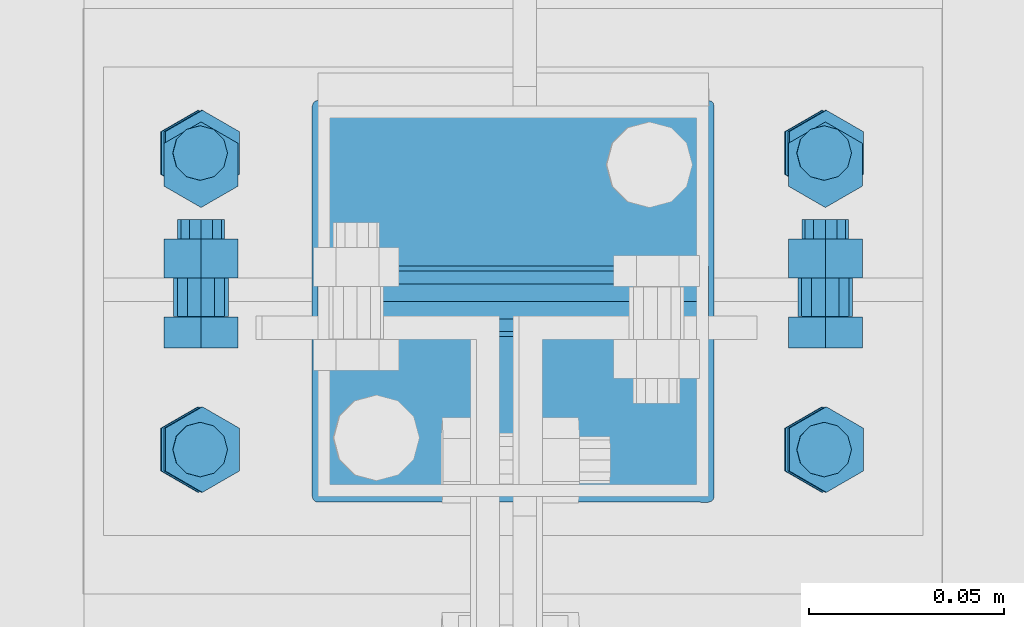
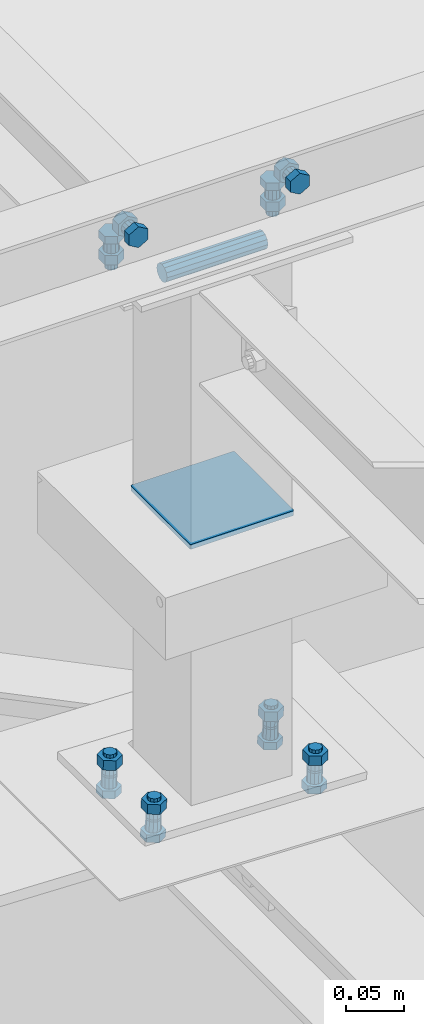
# One storey, part 231 of 3134: 6 mechanical fasteners, 4 elements without a shape of their own.
"""IFC2X3 building model written with IfcOpenShell, lengths in millimetres."""

from ifc_helpers import new_model, si_unit, frame, origin_with_axes, place, context, subcontext, project, spatial, faceted_brep, source, transform, mapped, material, type_object, element, aggregate, save


model = new_model("IFC2X3")

# Units and contexts
model_context = context("Model", 3, precision=1e-05, world=origin_with_axes())
body_context = subcontext(model_context, "Body", "Model", "MODEL_VIEW")
ifc_project = project(units=[si_unit("LENGTHUNIT", "METRE", prefix="MILLI"), si_unit("AREAUNIT", "SQUARE_METRE"), si_unit("VOLUMEUNIT", "CUBIC_METRE"), si_unit("MASSUNIT", "GRAM", prefix="KILO"), si_unit("TIMEUNIT", "SECOND"), si_unit("PLANEANGLEUNIT", "RADIAN"), si_unit("SOLIDANGLEUNIT", "STERADIAN"), si_unit("THERMODYNAMICTEMPERATUREUNIT", "DEGREE_CELSIUS"), si_unit("LUMINOUSINTENSITYUNIT", "LUMEN")], contexts=[model_context])

# Site, building, storey
site_placement = place(None, origin_with_axes())
site = spatial("IfcSite", under=ifc_project, at=site_placement, CompositionType="ELEMENT")
building_placement = place(site_placement, origin_with_axes())
building = spatial("IfcBuilding", under=site, at=building_placement, Name="Undefined", CompositionType="ELEMENT")
storey_placement = place(building_placement, origin_with_axes())
storey = spatial("IfcBuildingStorey", under=building, at=storey_placement, Name="Undefined", CompositionType="ELEMENT", Elevation=0.0)

# Assembly, mechanical fastener
assembly_1_placement = place(storey_placement, origin_with_axes())
assembly_1 = element("IfcElementAssembly", 1, at=assembly_1_placement, inside=storey, AssemblyPlace="NOTDEFINED", PredefinedType="RIGID_FRAME")
ifc_material_1 = material(Name="8.8")
mechanical_fastener_type = type_object("IfcMechanicalFastenerType", Name="Bolt assembly")
shared_shape_1 = source(origin_with_axes(), body_context, "Body", "Brep", [
    faceted_brep([(10.9696551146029, -14.0, 0.0), (5.48482755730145, -14.0, 9.5), (-5.48482755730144, -14.0, 9.5), (-10.9696551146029, -14.0, 1.34339530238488e-15), (-5.48482755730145, -14.0, -9.5), (5.48482755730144, -14.0, -9.50000000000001), (5.48482755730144, -6.0, -9.50000000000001), (-5.48482755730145, -6.0, -9.5), (-10.9696551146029, -6.0, 1.34339530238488e-15), (-5.48482755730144, -6.0, 9.5), (5.48482755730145, -6.0, 9.5), (10.9696551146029, -6.0, 0.0), (6.0, -6.0, 0.0), (5.19615242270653, -6.0, 3.00000000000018), (2.99999999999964, -6.0, 5.19615242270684), (-6.21801588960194e-13, -6.0, 6.0), (-3.00000000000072, -6.0, 5.19615242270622), (-5.19615242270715, -6.0, 2.9999999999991), (-6.0, -6.0, -1.24360317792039e-12), (-5.19615242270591, -6.0, -3.00000000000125), (-2.99999999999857, -6.0, -5.19615242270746), (1.85874342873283e-12, -6.0, -6.0), (3.00000000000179, -6.0, -5.1961524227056), (5.19615242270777, -6.0, -2.99999999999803), (5.19615242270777, 24.0, -2.99999999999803), (3.00000000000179, 24.0, -5.1961524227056), (1.85874342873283e-12, 24.0, -6.0), (-2.99999999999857, 24.0, -5.19615242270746), (-5.19615242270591, 24.0, -3.00000000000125), (-6.0, 24.0, -1.24360317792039e-12), (-5.19615242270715, 24.0, 2.9999999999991), (-3.00000000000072, 24.0, 5.19615242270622), (-6.21801588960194e-13, 24.0, 6.0), (2.99999999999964, 24.0, 5.19615242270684), (5.19615242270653, 24.0, 3.00000000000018), (6.0, 24.0, 0.0), (10.9696551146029, 6.00000000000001, 0.0), (5.48482755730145, 6.00000000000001, 9.5), (-5.48482755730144, 6.00000000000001, 9.5), (-10.9696551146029, 6.00000000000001, 1.34339530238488e-15), (-5.48482755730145, 6.00000000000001, -9.5), (5.48482755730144, 6.00000000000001, -9.50000000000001), (5.48482755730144, 16.0, -9.50000000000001), (-5.48482755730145, 16.0, -9.5), (-10.9696551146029, 16.0, 1.34339530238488e-15), (-5.48482755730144, 16.0, 9.5), (5.48482755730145, 16.0, 9.5), (10.9696551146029, 16.0, 0.0)], [[[0, 1, 2, 3, 4, 5]], [[6, 7, 8, 9, 10, 11]], [[0, 11, 10, 1]], [[1, 10, 9, 2]], [[2, 9, 8, 3]], [[3, 8, 7, 4]], [[4, 7, 6, 5]], [[5, 6, 11, 0]], [[12, 13, 14, 15, 16, 17, 18, 19, 20, 21, 22, 23]], [[24, 25, 26, 27, 28, 29, 30, 31, 32, 33, 34, 35]], [[12, 35, 34, 13]], [[13, 34, 33, 14]], [[14, 33, 32, 15]], [[15, 32, 31, 16]], [[16, 31, 30, 17]], [[17, 30, 29, 18]], [[18, 29, 28, 19]], [[19, 28, 27, 20]], [[20, 27, 26, 21]], [[21, 26, 25, 22]], [[22, 25, 24, 23]], [[23, 24, 35, 12]], [[36, 37, 38, 39, 40, 41]], [[42, 43, 44, 45, 46, 47]], [[36, 47, 46, 37]], [[37, 46, 45, 38]], [[38, 45, 44, 39]], [[39, 44, 43, 40]], [[40, 43, 42, 41]], [[41, 42, 47, 36]]]),
    faceted_brep([(7.0, -0.1, 0.0), (6.06217782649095, -0.1, 3.50000000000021), (3.49999999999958, -0.1, 6.06217782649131), (-7.25435187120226e-13, -0.1, 7.0), (-3.50000000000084, -0.1, 6.06217782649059), (-6.06217782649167, -0.1, 3.49999999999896), (-7.0, -0.1, -1.45087037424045e-12), (-6.06217782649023, -0.1, -3.50000000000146), (-3.49999999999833, -0.1, -6.06217782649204), (2.1685340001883e-12, -0.1, -7.0), (3.50000000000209, -0.1, -6.06217782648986), (6.0621778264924, -0.1, -3.4999999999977), (6.0621778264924, 6.00000000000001, -3.4999999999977), (3.50000000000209, 6.00000000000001, -6.06217782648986), (2.1685340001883e-12, 6.00000000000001, -7.0), (-3.49999999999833, 6.00000000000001, -6.06217782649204), (-6.06217782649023, 6.00000000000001, -3.50000000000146), (-7.0, 6.00000000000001, -1.45087037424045e-12), (-6.06217782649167, 6.00000000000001, 3.49999999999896), (-3.50000000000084, 6.00000000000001, 6.06217782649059), (-7.25435187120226e-13, 6.00000000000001, 7.0), (3.49999999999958, 6.00000000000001, 6.06217782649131), (6.06217782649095, 6.00000000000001, 3.50000000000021), (7.0, 6.00000000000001, 0.0), (7.0, -5.9, 0.0), (6.06217782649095, -5.9, 3.50000000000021), (3.49999999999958, -5.9, 6.06217782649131), (-7.25435187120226e-13, -5.9, 7.0), (-3.50000000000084, -5.9, 6.06217782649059), (-6.06217782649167, -5.9, 3.49999999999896), (-7.0, -5.9, -1.45087037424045e-12), (-6.06217782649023, -5.9, -3.50000000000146), (-3.49999999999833, -5.9, -6.06217782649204), (2.1685340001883e-12, -5.9, -7.0), (3.50000000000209, -5.9, -6.06217782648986), (6.0621778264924, -5.9, -3.4999999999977), (6.0621778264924, 0.0999999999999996, -3.4999999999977), (3.50000000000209, 0.0999999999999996, -6.06217782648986), (2.1685340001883e-12, 0.0999999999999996, -7.0), (-3.49999999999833, 0.0999999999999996, -6.06217782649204), (-6.06217782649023, 0.0999999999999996, -3.50000000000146), (-7.0, 0.0999999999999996, -1.45087037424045e-12), (-6.06217782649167, 0.0999999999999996, 3.49999999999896), (-3.50000000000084, 0.0999999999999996, 6.06217782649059), (-7.25435187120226e-13, 0.0999999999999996, 7.0), (3.49999999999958, 0.0999999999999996, 6.06217782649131), (6.06217782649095, 0.0999999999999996, 3.50000000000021), (7.0, 0.0999999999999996, 0.0)], [[[0, 1, 2, 3, 4, 5, 6, 7, 8, 9, 10, 11]], [[12, 13, 14, 15, 16, 17, 18, 19, 20, 21, 22, 23]], [[0, 23, 22, 1]], [[1, 22, 21, 2]], [[2, 21, 20, 3]], [[3, 20, 19, 4]], [[4, 19, 18, 5]], [[5, 18, 17, 6]], [[6, 17, 16, 7]], [[7, 16, 15, 8]], [[8, 15, 14, 9]], [[9, 14, 13, 10]], [[10, 13, 12, 11]], [[11, 12, 23, 0]], [[24, 25, 26, 27, 28, 29, 30, 31, 32, 33, 34, 35]], [[36, 37, 38, 39, 40, 41, 42, 43, 44, 45, 46, 47]], [[24, 47, 46, 25]], [[25, 46, 45, 26]], [[26, 45, 44, 27]], [[27, 44, 43, 28]], [[28, 43, 42, 29]], [[29, 42, 41, 30]], [[30, 41, 40, 31]], [[31, 40, 39, 32]], [[32, 39, 38, 33]], [[33, 38, 37, 34]], [[34, 37, 36, 35]], [[35, 36, 47, 24]]]),
])
mechanical_fastener_1_placement = place(assembly_1_placement, frame((28847.0, 52725.0, 10865.0), z_axis=(1.0, 0.0, 0.0), x_axis=(0.0, -1.0, 0.0)))
mechanical_fastener_1 = element("IfcMechanicalFastener", 2, at=mechanical_fastener_1_placement, type_object=mechanical_fastener_type, material=ifc_material_1, Name="Bolt assembly", NominalDiameter=12.0, NominalLength=30.0, context=body_context, shape_type="MappedRepresentation", body=[
    mapped(shared_shape_1, transform((0.0, -5.32963895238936e-10, -79.9999999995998))),
    mapped(shared_shape_1, transform((0.0, 5.3114490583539e-10, 79.9999999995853))),
])

assembly_2_placement = place(storey_placement, origin_with_axes())
assembly_2 = element("IfcElementAssembly", 3, at=assembly_2_placement, inside=storey, AssemblyPlace="NOTDEFINED", PredefinedType="RIGID_FRAME")
shared_shape_2 = source(origin_with_axes(), body_context, "Body", "Brep", [
    faceted_brep([(7.0, 13.0000253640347, 0.0), (6.06217782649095, 13.0000253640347, 3.50000000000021), (3.49999999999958, 13.0000253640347, 6.06217782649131), (-7.25435187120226e-13, 13.0000253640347, 7.0), (-3.50000000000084, 13.0000253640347, 6.06217782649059), (-6.06217782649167, 13.0000253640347, 3.49999999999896), (-7.0, 13.0000253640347, -1.45087037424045e-12), (-6.06217782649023, 13.0000253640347, -3.50000000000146), (-3.49999999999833, 13.0000253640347, -6.06217782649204), (2.1685340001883e-12, 13.0000253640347, -7.0), (3.50000000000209, 13.0000253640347, -6.06217782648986), (6.0621778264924, 13.0000253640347, -3.4999999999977), (6.0621778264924, 15.0999999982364, -3.4999999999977), (3.50000000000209, 15.0999999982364, -6.06217782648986), (2.1685340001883e-12, 15.0999999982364, -7.0), (-3.49999999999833, 15.0999999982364, -6.06217782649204), (-6.06217782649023, 15.0999999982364, -3.50000000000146), (-7.0, 15.0999999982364, -1.45087037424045e-12), (-6.06217782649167, 15.0999999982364, 3.49999999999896), (-3.50000000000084, 15.0999999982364, 6.06217782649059), (-7.25435187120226e-13, 15.0999999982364, 7.0), (3.49999999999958, 15.0999999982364, 6.06217782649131), (6.06217782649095, 15.0999999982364, 3.50000000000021), (7.0, 15.0999999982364, 0.0)], [[[0, 1, 2, 3, 4, 5, 6, 7, 8, 9, 10, 11]], [[12, 13, 14, 15, 16, 17, 18, 19, 20, 21, 22, 23]], [[0, 23, 22, 1]], [[1, 22, 21, 2]], [[2, 21, 20, 3]], [[3, 20, 19, 4]], [[4, 19, 18, 5]], [[5, 18, 17, 6]], [[6, 17, 16, 7]], [[7, 16, 15, 8]], [[8, 15, 14, 9]], [[9, 14, 13, 10]], [[10, 13, 12, 11]], [[11, 12, 23, 0]]]),
])
mechanical_fastener_2_placement = place(assembly_2_placement, frame((28846.2851187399, 52728.0, 10291.8572055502), z_axis=(-0.99951962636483, 0.0, 0.0309922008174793), x_axis=(0.0, -1.0, 0.0)))
mechanical_fastener_2 = element("IfcMechanicalFastener", 4, at=mechanical_fastener_2_placement, type_object=mechanical_fastener_type, material=ifc_material_1, Name="Bolt assembly", NominalDiameter=12.0, NominalLength=2.0, context=body_context, shape_type="MappedRepresentation", body=[
    mapped(shared_shape_2, transform((0.0, -5.32963895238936e-10, -79.9999999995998))),
    mapped(shared_shape_2, transform((76.0, -5.32963895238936e-10, -79.9999999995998))),
    mapped(shared_shape_2, transform((0.0, 5.3114490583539e-10, 79.9999999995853))),
    mapped(shared_shape_2, transform((76.0, 5.3114490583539e-10, 79.9999999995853))),
])
aggregate(assembly_2, [mechanical_fastener_2])

# Assembly, mechanical fasteners
assembly_3_placement = place(storey_placement, origin_with_axes())
assembly_3 = element("IfcElementAssembly", 5, at=assembly_3_placement, inside=storey, AssemblyPlace="NOTDEFINED", PredefinedType="RIGID_FRAME")
shared_shape_3 = source(origin_with_axes(), body_context, "Body", "Brep", [
    faceted_brep([(9.0, -50.0, 0.0), (7.79422863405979, -50.0, 4.50000000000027), (4.49999999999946, -50.0, 7.79422863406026), (-9.3270238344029e-13, -50.0, 9.0), (-4.50000000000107, -50.0, 7.79422863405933), (-7.79422863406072, -50.0, 4.49999999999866), (-9.0, -50.0, -1.86540476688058e-12), (-7.79422863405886, -50.0, -4.50000000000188), (-4.49999999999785, -50.0, -7.79422863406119), (2.78811514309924e-12, -50.0, -9.0), (4.50000000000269, -50.0, -7.7942286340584), (7.79422863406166, -50.0, -4.49999999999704), (7.79422863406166, 50.1, -4.49999999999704), (4.50000000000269, 50.1, -7.7942286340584), (2.78811514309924e-12, 50.1, -9.0), (-4.49999999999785, 50.1, -7.79422863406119), (-7.79422863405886, 50.1, -4.50000000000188), (-9.0, 50.1, -1.86540476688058e-12), (-7.79422863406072, 50.1, 4.49999999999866), (-4.50000000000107, 50.1, 7.79422863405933), (-9.3270238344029e-13, 50.1, 9.0), (4.49999999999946, 50.1, 7.79422863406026), (7.79422863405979, 50.1, 4.50000000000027), (9.0, 50.1, 0.0)], [[[0, 1, 2, 3, 4, 5, 6, 7, 8, 9, 10, 11]], [[12, 13, 14, 15, 16, 17, 18, 19, 20, 21, 22, 23]], [[0, 23, 22, 1]], [[1, 22, 21, 2]], [[2, 21, 20, 3]], [[3, 20, 19, 4]], [[4, 19, 18, 5]], [[5, 18, 17, 6]], [[6, 17, 16, 7]], [[7, 16, 15, 8]], [[8, 15, 14, 9]], [[9, 14, 13, 10]], [[10, 13, 12, 11]], [[11, 12, 23, 0]]]),
])
mechanical_fastener_3_placement = place(assembly_3_placement, frame((28847.0, 52690.0, 10845.0), z_axis=(0.0, 1.0, 0.0), x_axis=(0.0, 0.0, 1.0)))
mechanical_fastener_3 = element("IfcMechanicalFastener", 6, at=mechanical_fastener_3_placement, type_object=mechanical_fastener_type, material=ifc_material_1, Name="Bolt assembly", NominalDiameter=16.0, NominalLength=100.0, context=body_context, shape_type="MappedRepresentation", body=[
    mapped(shared_shape_3, transform((0.0, 0.0, 0.0))),
])
ifc_material_2 = material(Name="6.8")
shared_shape_4 = source(origin_with_axes(), body_context, "Body", "Brep", [
    faceted_brep([(51.5, 1.36424205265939e-12, 50.0), (51.3858192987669, 1.36424205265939e-12, 50.5740251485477), (51.0606601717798, 1.36424205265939e-12, 51.0606601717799), (50.5740251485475, 1.36424205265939e-12, 51.385819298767), (-50.0000000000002, 1.36424205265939e-12, 51.5), (-50.7500000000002, 1.36424205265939e-12, 51.2990381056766), (-51.2990381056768, 1.36424205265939e-12, 50.7499999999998), (-51.5, 1.36424205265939e-12, 49.9999999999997), (-51.5, 1.36424205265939e-12, -50.0000000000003), (-51.2990381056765, 1.36424205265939e-12, -50.7500000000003), (-50.7499999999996, 1.36424205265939e-12, -51.2990381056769), (-49.9999999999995, 1.36424205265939e-12, -51.5), (50.0000000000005, 1.36424205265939e-12, -51.5), (50.7500000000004, 1.36424205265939e-12, -51.2990381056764), (51.2990381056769, 1.36424205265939e-12, -50.7499999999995), (51.5, 1.36424205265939e-12, -49.9999999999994), (51.5, 5.10000000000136, -49.9999999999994), (51.2990381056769, 5.10000000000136, -50.7499999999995), (50.7500000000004, 5.10000000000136, -51.2990381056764), (50.0000000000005, 5.10000000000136, -51.5), (-49.9999999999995, 5.10000000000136, -51.5), (-50.7499999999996, 5.10000000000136, -51.2990381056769), (-51.2990381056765, 5.10000000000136, -50.7500000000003), (-51.5, 5.10000000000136, -50.0000000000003), (-51.5, 5.10000000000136, 49.9999999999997), (-51.2990381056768, 5.10000000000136, 50.7499999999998), (-50.7500000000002, 5.10000000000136, 51.2990381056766), (-50.0000000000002, 5.10000000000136, 51.5), (50.5740251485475, 5.10000000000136, 51.385819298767), (51.0606601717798, 5.10000000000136, 51.0606601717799), (51.3858192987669, 5.10000000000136, 50.5740251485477), (51.5, 5.10000000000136, 50.0)], [[[0, 1, 2, 3, 4, 5, 6, 7, 8, 9, 10, 11, 12, 13, 14, 15]], [[16, 17, 18, 19, 20, 21, 22, 23, 24, 25, 26, 27, 28, 29, 30, 31]], [[0, 31, 30, 1]], [[1, 30, 29, 2]], [[2, 29, 28, 3]], [[3, 28, 27, 4]], [[4, 27, 26, 5]], [[5, 26, 25, 6]], [[6, 25, 24, 7]], [[7, 24, 23, 8]], [[8, 23, 22, 9]], [[9, 22, 21, 10]], [[10, 21, 20, 11]], [[11, 20, 19, 12]], [[12, 19, 18, 13]], [[13, 18, 17, 14]], [[14, 17, 16, 15]], [[15, 16, 31, 0]]]),
])
mechanical_fastener_4_placement = place(assembly_3_placement, frame((28847.0, 52690.0, 10591.54), z_axis=(0.0, -1.0, 0.0), x_axis=(-1.0, 0.0, 0.0)))
mechanical_fastener_4 = element("IfcMechanicalFastener", 7, at=mechanical_fastener_4_placement, type_object=mechanical_fastener_type, material=ifc_material_2, Name="Bolt assembly", NominalDiameter=10.0, NominalLength=5.0, context=body_context, shape_type="MappedRepresentation", body=[
    mapped(shared_shape_4, transform((0.0, 0.0, 0.0))),
])
aggregate(assembly_3, [mechanical_fastener_3, mechanical_fastener_4])

# Mechanical fastener
shared_shape_5 = source(origin_with_axes(), body_context, "Body", "Brep", [
    faceted_brep([(10.9696551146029, -12.0, 0.0), (5.48482755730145, -12.0, 9.5), (-5.48482755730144, -12.0, 9.5), (-10.9696551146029, -12.0, 1.34339530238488e-15), (-5.48482755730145, -12.0, -9.5), (5.48482755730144, -12.0, -9.50000000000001), (5.48482755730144, -4.0, -9.50000000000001), (-5.48482755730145, -4.0, -9.5), (-10.9696551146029, -4.0, 1.34339530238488e-15), (-5.48482755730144, -4.0, 9.5), (5.48482755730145, -4.0, 9.5), (10.9696551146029, -4.0, 0.0), (6.0, -4.0, 0.0), (5.19615242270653, -4.0, 3.00000000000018), (2.99999999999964, -4.0, 5.19615242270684), (-6.21801588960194e-13, -4.0, 6.0), (-3.00000000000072, -4.0, 5.19615242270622), (-5.19615242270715, -4.0, 2.9999999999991), (-6.0, -4.0, -1.24360317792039e-12), (-5.19615242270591, -4.0, -3.00000000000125), (-2.99999999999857, -4.0, -5.19615242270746), (1.85874342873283e-12, -4.0, -6.0), (3.00000000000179, -4.0, -5.1961524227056), (5.19615242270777, -4.0, -2.99999999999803), (5.19615242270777, 21.0, -2.99999999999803), (3.00000000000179, 21.0, -5.1961524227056), (1.85874342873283e-12, 21.0, -6.0), (-2.99999999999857, 21.0, -5.19615242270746), (-5.19615242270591, 21.0, -3.00000000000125), (-6.0, 21.0, -1.24360317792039e-12), (-5.19615242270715, 21.0, 2.9999999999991), (-3.00000000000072, 21.0, 5.19615242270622), (-6.21801588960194e-13, 21.0, 6.0), (2.99999999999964, 21.0, 5.19615242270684), (5.19615242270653, 21.0, 3.00000000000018), (6.0, 21.0, 0.0), (10.9696551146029, 6.00000000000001, 0.0), (5.48482755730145, 6.00000000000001, 9.5), (-5.48482755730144, 6.00000000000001, 9.5), (-10.9696551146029, 6.00000000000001, 1.34339530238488e-15), (-5.48482755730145, 6.00000000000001, -9.5), (5.48482755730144, 6.00000000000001, -9.50000000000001), (5.48482755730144, 16.0, -9.50000000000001), (-5.48482755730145, 16.0, -9.5), (-10.9696551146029, 16.0, 1.34339530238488e-15), (-5.48482755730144, 16.0, 9.5), (5.48482755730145, 16.0, 9.5), (10.9696551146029, 16.0, 0.0)], [[[0, 1, 2, 3, 4, 5]], [[6, 7, 8, 9, 10, 11]], [[0, 11, 10, 1]], [[1, 10, 9, 2]], [[2, 9, 8, 3]], [[3, 8, 7, 4]], [[4, 7, 6, 5]], [[5, 6, 11, 0]], [[12, 13, 14, 15, 16, 17, 18, 19, 20, 21, 22, 23]], [[24, 25, 26, 27, 28, 29, 30, 31, 32, 33, 34, 35]], [[12, 35, 34, 13]], [[13, 34, 33, 14]], [[14, 33, 32, 15]], [[15, 32, 31, 16]], [[16, 31, 30, 17]], [[17, 30, 29, 18]], [[18, 29, 28, 19]], [[19, 28, 27, 20]], [[20, 27, 26, 21]], [[21, 26, 25, 22]], [[22, 25, 24, 23]], [[23, 24, 35, 12]], [[36, 37, 38, 39, 40, 41]], [[42, 43, 44, 45, 46, 47]], [[36, 47, 46, 37]], [[37, 46, 45, 38]], [[38, 45, 44, 39]], [[39, 44, 43, 40]], [[40, 43, 42, 41]], [[41, 42, 47, 36]]]),
    faceted_brep([(7.0, -3.9, 0.0), (6.06217782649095, -3.9, 3.50000000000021), (3.49999999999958, -3.9, 6.06217782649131), (-7.25435187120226e-13, -3.9, 7.0), (-3.50000000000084, -3.9, 6.06217782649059), (-6.06217782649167, -3.9, 3.49999999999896), (-7.0, -3.9, -1.45087037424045e-12), (-6.06217782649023, -3.9, -3.50000000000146), (-3.49999999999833, -3.9, -6.06217782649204), (2.1685340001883e-12, -3.9, -7.0), (3.50000000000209, -3.9, -6.06217782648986), (6.0621778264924, -3.9, -3.4999999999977), (6.0621778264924, 0.0999999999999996, -3.4999999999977), (3.50000000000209, 0.0999999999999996, -6.06217782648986), (2.1685340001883e-12, 0.0999999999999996, -7.0), (-3.49999999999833, 0.0999999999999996, -6.06217782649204), (-6.06217782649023, 0.0999999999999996, -3.50000000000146), (-7.0, 0.0999999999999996, -1.45087037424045e-12), (-6.06217782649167, 0.0999999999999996, 3.49999999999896), (-3.50000000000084, 0.0999999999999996, 6.06217782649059), (-7.25435187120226e-13, 0.0999999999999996, 7.0), (3.49999999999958, 0.0999999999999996, 6.06217782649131), (6.06217782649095, 0.0999999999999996, 3.50000000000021), (7.0, 0.0999999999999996, 0.0), (7.0, -0.1, 0.0), (6.06217782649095, -0.1, 3.50000000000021), (3.49999999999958, -0.1, 6.06217782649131), (-7.25435187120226e-13, -0.1, 7.0), (-3.50000000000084, -0.1, 6.06217782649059), (-6.06217782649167, -0.1, 3.49999999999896), (-7.0, -0.1, -1.45087037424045e-12), (-6.06217782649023, -0.1, -3.50000000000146), (-3.49999999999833, -0.1, -6.06217782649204), (2.1685340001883e-12, -0.1, -7.0), (3.50000000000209, -0.1, -6.06217782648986), (6.0621778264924, -0.1, -3.4999999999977), (6.0621778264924, 6.00000000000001, -3.4999999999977), (3.50000000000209, 6.00000000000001, -6.06217782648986), (2.1685340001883e-12, 6.00000000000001, -7.0), (-3.49999999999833, 6.00000000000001, -6.06217782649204), (-6.06217782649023, 6.00000000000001, -3.50000000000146), (-7.0, 6.00000000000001, -1.45087037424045e-12), (-6.06217782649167, 6.00000000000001, 3.49999999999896), (-3.50000000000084, 6.00000000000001, 6.06217782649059), (-7.25435187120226e-13, 6.00000000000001, 7.0), (3.49999999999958, 6.00000000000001, 6.06217782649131), (6.06217782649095, 6.00000000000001, 3.50000000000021), (7.0, 6.00000000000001, 0.0)], [[[0, 1, 2, 3, 4, 5, 6, 7, 8, 9, 10, 11]], [[12, 13, 14, 15, 16, 17, 18, 19, 20, 21, 22, 23]], [[0, 23, 22, 1]], [[1, 22, 21, 2]], [[2, 21, 20, 3]], [[3, 20, 19, 4]], [[4, 19, 18, 5]], [[5, 18, 17, 6]], [[6, 17, 16, 7]], [[7, 16, 15, 8]], [[8, 15, 14, 9]], [[9, 14, 13, 10]], [[10, 13, 12, 11]], [[11, 12, 23, 0]], [[24, 25, 26, 27, 28, 29, 30, 31, 32, 33, 34, 35]], [[36, 37, 38, 39, 40, 41, 42, 43, 44, 45, 46, 47]], [[24, 47, 46, 25]], [[25, 46, 45, 26]], [[26, 45, 44, 27]], [[27, 44, 43, 28]], [[28, 43, 42, 29]], [[29, 42, 41, 30]], [[30, 41, 40, 31]], [[31, 40, 39, 32]], [[32, 39, 38, 33]], [[33, 38, 37, 34]], [[34, 37, 36, 35]], [[35, 36, 47, 24]]]),
])
mechanical_fastener_5_placement = place(assembly_1_placement, frame((28847.0, 52690.0, 10900.0), z_axis=(1.0, 0.0, 0.0), x_axis=(0.0, 0.0, -1.0)))
mechanical_fastener_5 = element("IfcMechanicalFastener", 8, at=mechanical_fastener_5_placement, type_object=mechanical_fastener_type, material=ifc_material_1, Name="Bolt assembly", NominalDiameter=12.0, NominalLength=25.0, context=body_context, shape_type="MappedRepresentation", body=[
    mapped(shared_shape_5, transform((0.0, -5.32963895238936e-10, -79.9999999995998))),
    mapped(shared_shape_5, transform((0.0, 5.3114490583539e-10, 79.9999999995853))),
])

aggregate(assembly_1, [mechanical_fastener_5, mechanical_fastener_1])

# Assembly, mechanical fastener
assembly_4_placement = place(storey_placement, origin_with_axes())
assembly_4 = element("IfcElementAssembly", 9, at=assembly_4_placement, inside=storey, Name="IPE330", AssemblyPlace="NOTDEFINED", PredefinedType="RIGID_FRAME")
shared_shape_6 = source(origin_with_axes(), body_context, "Body", "Brep", [
    faceted_brep([(10.9696551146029, -6.4876179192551, 0.0), (5.48482755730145, -6.4876179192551, 9.5), (-5.48482755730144, -6.4876179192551, 9.5), (-10.9696551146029, -6.4876179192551, 1.34339530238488e-15), (-5.48482755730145, -6.4876179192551, -9.5), (5.48482755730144, -6.4876179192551, -9.50000000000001), (5.48482755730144, 1.5123820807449, -9.50000000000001), (-5.48482755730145, 1.5123820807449, -9.5), (-10.9696551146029, 1.5123820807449, 1.34339530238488e-15), (-5.48482755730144, 1.5123820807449, 9.5), (5.48482755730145, 1.5123820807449, 9.5), (10.9696551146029, 1.5123820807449, 0.0), (6.0, 1.5123820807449, 0.0), (5.19615242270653, 1.5123820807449, 3.00000000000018), (2.99999999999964, 1.5123820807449, 5.19615242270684), (-6.21801588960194e-13, 1.5123820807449, 6.0), (-3.00000000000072, 1.5123820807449, 5.19615242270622), (-5.19615242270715, 1.5123820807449, 2.9999999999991), (-6.0, 1.5123820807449, -1.24360317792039e-12), (-5.19615242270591, 1.5123820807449, -3.00000000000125), (-2.99999999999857, 1.5123820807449, -5.19615242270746), (1.85874342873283e-12, 1.5123820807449, -6.0), (3.00000000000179, 1.5123820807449, -5.1961524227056), (5.19615242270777, 1.5123820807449, -2.99999999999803), (5.19615242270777, 36.5123820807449, -2.99999999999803), (3.00000000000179, 36.5123820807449, -5.1961524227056), (1.85874342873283e-12, 36.5123820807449, -6.0), (-2.99999999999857, 36.5123820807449, -5.19615242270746), (-5.19615242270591, 36.5123820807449, -3.00000000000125), (-6.0, 36.5123820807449, -1.24360317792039e-12), (-5.19615242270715, 36.5123820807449, 2.9999999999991), (-3.00000000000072, 36.5123820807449, 5.19615242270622), (-6.21801588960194e-13, 36.5123820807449, 6.0), (2.99999999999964, 36.5123820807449, 5.19615242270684), (5.19615242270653, 36.5123820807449, 3.00000000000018), (6.0, 36.5123820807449, 0.0), (10.9696551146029, 23.0039050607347, 0.0), (5.48482755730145, 23.0039050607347, 9.5), (-5.48482755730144, 23.0039050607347, 9.5), (-10.9696551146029, 23.0039050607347, 1.34339530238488e-15), (-5.48482755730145, 23.0039050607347, -9.5), (5.48482755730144, 23.0039050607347, -9.50000000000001), (5.48482755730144, 33.0039050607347, -9.50000000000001), (-5.48482755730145, 33.0039050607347, -9.5), (-10.9696551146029, 33.0039050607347, 1.34339530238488e-15), (-5.48482755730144, 33.0039050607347, 9.5), (5.48482755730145, 33.0039050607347, 9.5), (10.9696551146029, 33.0039050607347, 0.0)], [[[0, 1, 2, 3, 4, 5]], [[6, 7, 8, 9, 10, 11]], [[0, 11, 10, 1]], [[1, 10, 9, 2]], [[2, 9, 8, 3]], [[3, 8, 7, 4]], [[4, 7, 6, 5]], [[5, 6, 11, 0]], [[12, 13, 14, 15, 16, 17, 18, 19, 20, 21, 22, 23]], [[24, 25, 26, 27, 28, 29, 30, 31, 32, 33, 34, 35]], [[12, 35, 34, 13]], [[13, 34, 33, 14]], [[14, 33, 32, 15]], [[15, 32, 31, 16]], [[16, 31, 30, 17]], [[17, 30, 29, 18]], [[18, 29, 28, 19]], [[19, 28, 27, 20]], [[20, 27, 26, 21]], [[21, 26, 25, 22]], [[22, 25, 24, 23]], [[23, 24, 35, 12]], [[36, 37, 38, 39, 40, 41]], [[42, 43, 44, 45, 46, 47]], [[36, 47, 46, 37]], [[37, 46, 45, 38]], [[38, 45, 44, 39]], [[39, 44, 43, 40]], [[40, 43, 42, 41]], [[41, 42, 47, 36]]]),
    faceted_brep([(7.0, 14.9039050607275, 0.0), (6.06217782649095, 14.9039050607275, 3.50000000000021), (3.49999999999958, 14.9039050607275, 6.06217782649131), (-7.25435187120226e-13, 14.9039050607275, 7.0), (-3.50000000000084, 14.9039050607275, 6.06217782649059), (-6.06217782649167, 14.9039050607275, 3.49999999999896), (-7.0, 14.9039050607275, -1.45087037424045e-12), (-6.06217782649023, 14.9039050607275, -3.50000000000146), (-3.49999999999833, 14.9039050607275, -6.06217782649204), (2.1685340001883e-12, 14.9039050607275, -7.0), (3.50000000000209, 14.9039050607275, -6.06217782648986), (6.0621778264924, 14.9039050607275, -3.4999999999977), (6.0621778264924, 23.0039050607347, -3.4999999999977), (3.50000000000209, 23.0039050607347, -6.06217782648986), (2.1685340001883e-12, 23.0039050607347, -7.0), (-3.49999999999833, 23.0039050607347, -6.06217782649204), (-6.06217782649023, 23.0039050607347, -3.50000000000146), (-7.0, 23.0039050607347, -1.45087037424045e-12), (-6.06217782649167, 23.0039050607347, 3.49999999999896), (-3.50000000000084, 23.0039050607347, 6.06217782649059), (-7.25435187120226e-13, 23.0039050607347, 7.0), (3.49999999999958, 23.0039050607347, 6.06217782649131), (6.06217782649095, 23.0039050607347, 3.50000000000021), (7.0, 23.0039050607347, 0.0), (7.0, 1.6123820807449, 0.0), (6.06217782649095, 1.6123820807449, 3.50000000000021), (3.49999999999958, 1.6123820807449, 6.06217782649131), (-7.25435187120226e-13, 1.6123820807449, 7.0), (-3.50000000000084, 1.6123820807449, 6.06217782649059), (-6.06217782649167, 1.6123820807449, 3.49999999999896), (-7.0, 1.6123820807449, -1.45087037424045e-12), (-6.06217782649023, 1.6123820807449, -3.50000000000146), (-3.49999999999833, 1.6123820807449, -6.06217782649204), (2.1685340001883e-12, 1.6123820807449, -7.0), (3.50000000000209, 1.6123820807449, -6.06217782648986), (6.0621778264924, 1.6123820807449, -3.4999999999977), (6.0621778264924, 13.1123820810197, -3.4999999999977), (3.50000000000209, 13.1123820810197, -6.06217782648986), (2.1685340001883e-12, 13.1123820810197, -7.0), (-3.49999999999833, 13.1123820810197, -6.06217782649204), (-6.06217782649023, 13.1123820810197, -3.50000000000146), (-7.0, 13.1123820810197, -1.45087037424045e-12), (-6.06217782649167, 13.1123820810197, 3.49999999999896), (-3.50000000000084, 13.1123820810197, 6.06217782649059), (-7.25435187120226e-13, 13.1123820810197, 7.0), (3.49999999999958, 13.1123820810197, 6.06217782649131), (6.06217782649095, 13.1123820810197, 3.50000000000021), (7.0, 13.1123820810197, 0.0)], [[[0, 1, 2, 3, 4, 5, 6, 7, 8, 9, 10, 11]], [[12, 13, 14, 15, 16, 17, 18, 19, 20, 21, 22, 23]], [[0, 23, 22, 1]], [[1, 22, 21, 2]], [[2, 21, 20, 3]], [[3, 20, 19, 4]], [[4, 19, 18, 5]], [[5, 18, 17, 6]], [[6, 17, 16, 7]], [[7, 16, 15, 8]], [[8, 15, 14, 9]], [[9, 14, 13, 10]], [[10, 13, 12, 11]], [[11, 12, 23, 0]], [[24, 25, 26, 27, 28, 29, 30, 31, 32, 33, 34, 35]], [[36, 37, 38, 39, 40, 41, 42, 43, 44, 45, 46, 47]], [[24, 47, 46, 25]], [[25, 46, 45, 26]], [[26, 45, 44, 27]], [[27, 44, 43, 28]], [[28, 43, 42, 29]], [[29, 42, 41, 30]], [[30, 41, 40, 31]], [[31, 40, 39, 32]], [[32, 39, 38, 33]], [[33, 38, 37, 34]], [[34, 37, 36, 35]], [[35, 36, 47, 24]]]),
])
mechanical_fastener_6_placement = place(assembly_4_placement, frame((28846.2851187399, 52728.0, 10291.8572055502), z_axis=(-0.99951962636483, 0.0, 0.0309922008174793), x_axis=(0.0, -1.0, 0.0)))
mechanical_fastener_6 = element("IfcMechanicalFastener", 10, at=mechanical_fastener_6_placement, type_object=mechanical_fastener_type, material=ifc_material_1, Name="Bolt assembly", NominalDiameter=12.0, NominalLength=35.0, context=body_context, shape_type="MappedRepresentation", body=[
    mapped(shared_shape_6, transform((0.0, -5.32963895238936e-10, -79.9999999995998))),
    mapped(shared_shape_6, transform((76.0, -5.32963895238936e-10, -79.9999999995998))),
    mapped(shared_shape_6, transform((0.0, 5.3114490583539e-10, 79.9999999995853))),
    mapped(shared_shape_6, transform((76.0, 5.3114490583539e-10, 79.9999999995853))),
])
aggregate(assembly_4, [mechanical_fastener_6])

save(model, "model.ifc")
